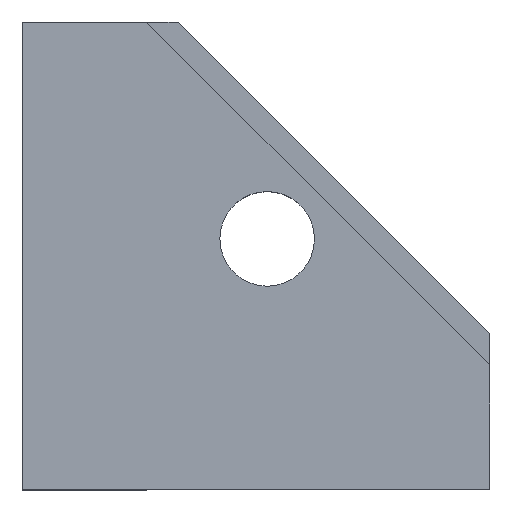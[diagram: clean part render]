
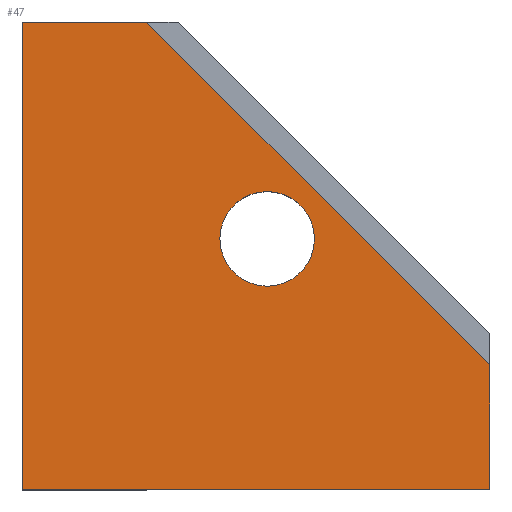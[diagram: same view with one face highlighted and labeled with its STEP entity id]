
A CAD part, top view. The second image highlights one B-rep face of the part: STEP entity #47.
In plain terms, the highlighted planar face has unit normal (0, 0, 1).
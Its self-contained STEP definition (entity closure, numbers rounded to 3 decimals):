
#19 = DIRECTION ( 'NONE',  ( -1., 0., 0. ) ) ;
#20 = ORIENTED_EDGE ( 'NONE', *, *, #889, .F. ) ;
#32 = AXIS2_PLACEMENT_3D ( 'NONE', #73, #86, #374 ) ;
#44 = CARTESIAN_POINT ( 'NONE',  ( 42., 0., 5. ) ) ;
#47 = ADVANCED_FACE ( 'NONE', ( #63, #438 ), #845, .F. ) ;
#63 = FACE_OUTER_BOUND ( 'NONE', #638, .T. ) ;
#73 = CARTESIAN_POINT ( 'NONE',  ( 22., 22.5, 5. ) ) ;
#77 = ORIENTED_EDGE ( 'NONE', *, *, #527, .F. ) ;
#86 = DIRECTION ( 'NONE',  ( 0., 0., 1. ) ) ;
#104 = EDGE_CURVE ( 'NONE', #665, #380, #565, .T. ) ;
#125 = EDGE_CURVE ( 'NONE', #211, #179, #526, .T. ) ;
#179 = VERTEX_POINT ( 'NONE', #647 ) ;
#207 = CARTESIAN_POINT ( 'NONE',  ( 0., 0., 5. ) ) ;
#208 = EDGE_CURVE ( 'NONE', #458, #498, #604, .T. ) ;
#211 = VERTEX_POINT ( 'NONE', #524 ) ;
#212 = CARTESIAN_POINT ( 'NONE',  ( 0., 0., 5. ) ) ;
#230 = VECTOR ( 'NONE', #324, 1000. ) ;
#243 = DIRECTION ( 'NONE',  ( 0., 1., 0. ) ) ;
#247 = LINE ( 'NONE', #874, #230 ) ;
#288 = ORIENTED_EDGE ( 'NONE', *, *, #125, .F. ) ;
#290 = DIRECTION ( 'NONE',  ( 0., -1., 0. ) ) ;
#292 = VECTOR ( 'NONE', #900, 1000. ) ;
#302 = CARTESIAN_POINT ( 'NONE',  ( 22., 22.5, 5. ) ) ;
#314 = EDGE_LOOP ( 'NONE', ( #288, #77 ) ) ;
#317 = EDGE_CURVE ( 'NONE', #665, #458, #453, .T. ) ;
#324 = DIRECTION ( 'NONE',  ( -1., 0., 0. ) ) ;
#374 = DIRECTION ( 'NONE',  ( -1., 0., 0. ) ) ;
#380 = VERTEX_POINT ( 'NONE', #770 ) ;
#432 = DIRECTION ( 'NONE',  ( 0., 0., -1. ) ) ;
#434 = CIRCLE ( 'NONE', #32, 4.25 ) ;
#438 = FACE_BOUND ( 'NONE', #314, .T. ) ;
#450 = VECTOR ( 'NONE', #655, 1000. ) ;
#453 = LINE ( 'NONE', #740, #630 ) ;
#458 = VERTEX_POINT ( 'NONE', #688 ) ;
#479 = AXIS2_PLACEMENT_3D ( 'NONE', #207, #432, #290 ) ;
#483 = LINE ( 'NONE', #769, #292 ) ;
#498 = VERTEX_POINT ( 'NONE', #585 ) ;
#524 = CARTESIAN_POINT ( 'NONE',  ( 17.75, 22.5, 5. ) ) ;
#526 = CIRCLE ( 'NONE', #616, 4.25 ) ;
#527 = EDGE_CURVE ( 'NONE', #179, #211, #434, .T. ) ;
#563 = CARTESIAN_POINT ( 'NONE',  ( 11.172, 42., 5. ) ) ;
#565 = LINE ( 'NONE', #212, #450 ) ;
#585 = CARTESIAN_POINT ( 'NONE',  ( 42., 11.172, 5. ) ) ;
#590 = VERTEX_POINT ( 'NONE', #563 ) ;
#604 = LINE ( 'NONE', #44, #645 ) ;
#616 = AXIS2_PLACEMENT_3D ( 'NONE', #302, #627, #19 ) ;
#627 = DIRECTION ( 'NONE',  ( 0., 0., 1. ) ) ;
#630 = VECTOR ( 'NONE', #810, 1000. ) ;
#638 = EDGE_LOOP ( 'NONE', ( #649, #20, #789, #720, #906 ) ) ;
#645 = VECTOR ( 'NONE', #243, 1000. ) ;
#647 = CARTESIAN_POINT ( 'NONE',  ( 26.25, 22.5, 5. ) ) ;
#649 = ORIENTED_EDGE ( 'NONE', *, *, #208, .T. ) ;
#655 = DIRECTION ( 'NONE',  ( 0., 1., 0. ) ) ;
#665 = VERTEX_POINT ( 'NONE', #812 ) ;
#688 = CARTESIAN_POINT ( 'NONE',  ( 42., 0., 5. ) ) ;
#689 = EDGE_CURVE ( 'NONE', #590, #380, #247, .T. ) ;
#720 = ORIENTED_EDGE ( 'NONE', *, *, #104, .F. ) ;
#740 = CARTESIAN_POINT ( 'NONE',  ( 0., 0., 5. ) ) ;
#769 = CARTESIAN_POINT ( 'NONE',  ( 11.172, 42., 5. ) ) ;
#770 = CARTESIAN_POINT ( 'NONE',  ( 0., 42., 5. ) ) ;
#789 = ORIENTED_EDGE ( 'NONE', *, *, #689, .T. ) ;
#810 = DIRECTION ( 'NONE',  ( 1., 0., 0. ) ) ;
#812 = CARTESIAN_POINT ( 'NONE',  ( 0., 0., 5. ) ) ;
#845 = PLANE ( 'NONE',  #479 ) ;
#874 = CARTESIAN_POINT ( 'NONE',  ( 14., 42., 5. ) ) ;
#889 = EDGE_CURVE ( 'NONE', #590, #498, #483, .T. ) ;
#900 = DIRECTION ( 'NONE',  ( 0.707, -0.707, 0. ) ) ;
#906 = ORIENTED_EDGE ( 'NONE', *, *, #317, .T. ) ;
